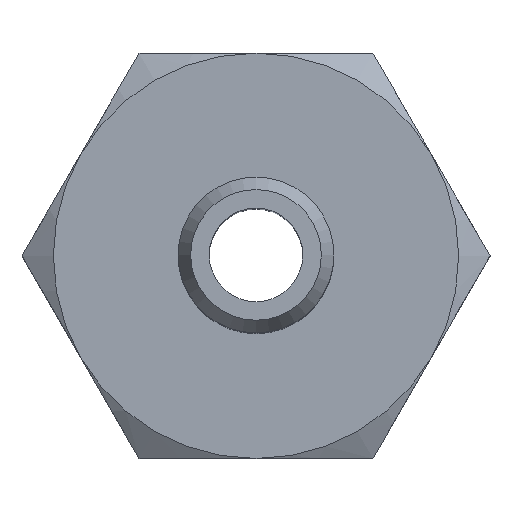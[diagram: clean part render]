
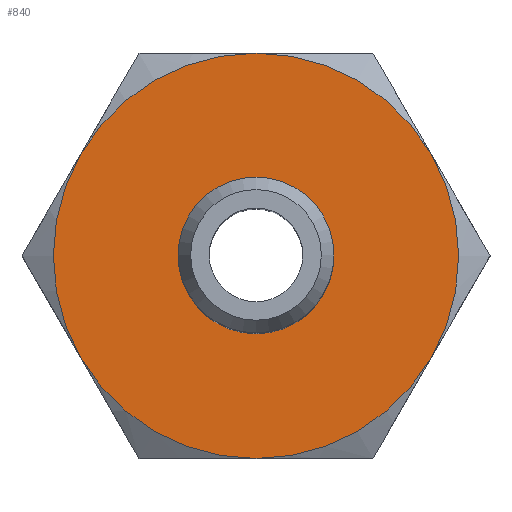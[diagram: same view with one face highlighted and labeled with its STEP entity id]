
A CAD part, top view. The second image highlights one B-rep face of the part: STEP entity #840.
In plain terms, the highlighted planar face has unit normal (0, 0, 1).
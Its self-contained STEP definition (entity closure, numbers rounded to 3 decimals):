
#840=ADVANCED_FACE('', (#850,#860), #870, .T.);
#3060=AXIS2_PLACEMENT_3D('Ax2Pl3d', #3070, #3080, #3090);
#3140=AXIS2_PLACEMENT_3D('Ax2Pl3d', #3150, #3160, #3170);
#3220=AXIS2_PLACEMENT_3D('Ax2Pl3d', #3230, #3240, #3250);
#3300=AXIS2_PLACEMENT_3D('Ax2Pl3d', #3310, #3320, #3330);
#3380=AXIS2_PLACEMENT_3D('Ax2Pl3d', #3390, #3400, #3410);
#3460=AXIS2_PLACEMENT_3D('Ax2Pl3d', #3470, #3480, #3490);
#3500=AXIS2_PLACEMENT_3D('Ax2Pl3d', #3510, #3520, #3530);
#3540=AXIS2_PLACEMENT_3D('Ax2Pl3d', #3550, #3560, #3570);
#6470=CARTESIAN_POINT('', (4.561,13.102,21.625));
#6650=CARTESIAN_POINT('', (10.191,16.352,21.625));
#6660=CARTESIAN_POINT('', (4.561,6.602,21.625));
#6760=CARTESIAN_POINT('', (10.191,3.352,21.625));
#6880=CARTESIAN_POINT('', (15.82,13.102,21.625));
#6890=CARTESIAN_POINT('', (15.82,6.602,21.625));
#3070=CARTESIAN_POINT('HicPkt', (10.191,9.852,21.625));
#3150=CARTESIAN_POINT('HicPkt', (10.191,9.852,21.625));
#3230=CARTESIAN_POINT('HicPkt', (10.191,9.852,21.625));
#3310=CARTESIAN_POINT('HicPkt', (10.191,9.852,21.625));
#3390=CARTESIAN_POINT('HicPkt', (10.191,9.852,21.625));
#3470=CARTESIAN_POINT('HicPkt', (10.191,9.852,21.625));
#3510=CARTESIAN_POINT('HicPkt', (16.691,9.852,21.625));
#3550=CARTESIAN_POINT('HicPkt', (10.191,9.852,21.625));
#6900=CARTESIAN_POINT('', (10.191,12.352,21.625));
#7250=CIRCLE('Circle', #3060, 6.5);
#7260=CIRCLE('Circle', #3140, 6.5);
#7270=CIRCLE('Circle', #3220, 6.5);
#7280=CIRCLE('Circle', #3300, 6.5);
#7290=CIRCLE('Circle', #3380, 6.5);
#7300=CIRCLE('Circle', #3460, 6.5);
#7310=CIRCLE('Circle', #3540, 2.5);
#3080=DIRECTION('Axis', (0.,0.,-1.));
#3090=DIRECTION('RefDirection', (-1.,-0.,0.));
#3160=DIRECTION('Axis', (0.,0.,-1.));
#3170=DIRECTION('RefDirection', (-1.,-0.,0.));
#3240=DIRECTION('Axis', (0.,0.,-1.));
#3250=DIRECTION('RefDirection', (-1.,-0.,0.));
#3320=DIRECTION('Axis', (0.,0.,-1.));
#3330=DIRECTION('RefDirection', (-1.,-0.,0.));
#3400=DIRECTION('Axis', (0.,0.,-1.));
#3410=DIRECTION('RefDirection', (-1.,-0.,0.));
#3480=DIRECTION('Axis', (0.,0.,-1.));
#3490=DIRECTION('RefDirection', (-1.,-0.,0.));
#3520=DIRECTION('Axis', (0.,0.,1.));
#3530=DIRECTION('RefDirection', (1.,0.,-0.));
#3560=DIRECTION('Axis', (0.,0.,1.));
#3570=DIRECTION('RefDirection', (1.,0.,-0.));
#10840=EDGE_CURVE('', #10380, #10050, #7250, .T.);
#10850=EDGE_CURVE('', #10050, #10350, #7260, .T.);
#10860=EDGE_CURVE('', #10350, #10790, #7270, .T.);
#10870=EDGE_CURVE('', #10790, #10820, #7280, .T.);
#10880=EDGE_CURVE('', #10820, #10550, #7290, .T.);
#10890=EDGE_CURVE('', #10550, #10380, #7300, .T.);
#10900=EDGE_CURVE('', #10910, #10910, #7310, .T.);
#12530=EDGE_LOOP('Edge_loop', (#12540,#12550,#12560,#12570,#12580,
#12590));
#12600=EDGE_LOOP('Edge_loop', (#12610));
#860=FACE_BOUND('', #12600, .T.);
#850=FACE_OUTER_BOUND('Face_outer_bound', #12530, .T.);
#12540=ORIENTED_EDGE('', *, *, #10880, .F.);
#12550=ORIENTED_EDGE('', *, *, #10870, .F.);
#12560=ORIENTED_EDGE('', *, *, #10860, .F.);
#12570=ORIENTED_EDGE('', *, *, #10850, .F.);
#12580=ORIENTED_EDGE('', *, *, #10840, .F.);
#12590=ORIENTED_EDGE('', *, *, #10890, .F.);
#12610=ORIENTED_EDGE('', *, *, #10900, .F.);
#870=PLANE('Plane', #3500);
#10050=VERTEX_POINT('', #6470);
#10350=VERTEX_POINT('', #6650);
#10380=VERTEX_POINT('', #6660);
#10550=VERTEX_POINT('', #6760);
#10790=VERTEX_POINT('', #6880);
#10820=VERTEX_POINT('', #6890);
#10910=VERTEX_POINT('', #6900);
